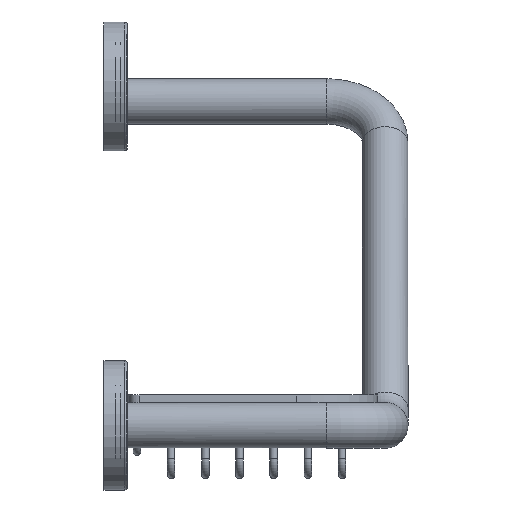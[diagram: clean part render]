
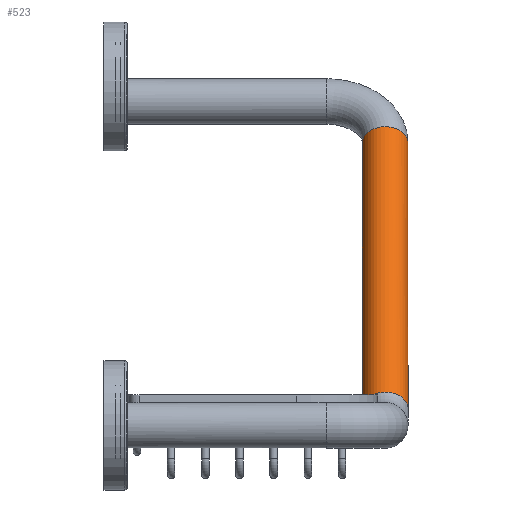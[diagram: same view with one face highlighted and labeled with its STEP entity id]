
A CAD part, left-side view. The second image highlights one B-rep face of the part: STEP entity #523.
In plain terms, the highlighted cylindrical face has radius 9 mm (diameter 18 mm), a full revolution.
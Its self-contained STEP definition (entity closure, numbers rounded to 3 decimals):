
#412=CYLINDRICAL_SURFACE('',#2634,9.);
#523=ADVANCED_FACE('',(#767,#768),#412,.T.);
#767=FACE_BOUND('',#1089,.T.);
#768=FACE_BOUND('',#1090,.T.);
#1089=EDGE_LOOP('',(#1479));
#1090=EDGE_LOOP('',(#1480));
#1479=ORIENTED_EDGE('',*,*,#2168,.T.);
#1480=ORIENTED_EDGE('',*,*,#2171,.F.);
#1923=VERTEX_POINT('',#3885);
#1926=VERTEX_POINT('',#3949);
#2168=EDGE_CURVE('',#1923,#1923,#2402,.T.);
#2171=EDGE_CURVE('',#1926,#1926,#2404,.T.);
#2402=CIRCLE('',#2629,9.);
#2404=CIRCLE('',#2632,9.);
#2629=AXIS2_PLACEMENT_3D('',#3884,#3145,#3146);
#2632=AXIS2_PLACEMENT_3D('',#3948,#3151,#3152);
#2634=AXIS2_PLACEMENT_3D('',#3951,#3155,#3156);
#3145=DIRECTION('',(0.707,0.,0.707));
#3146=DIRECTION('',(0.707,0.,-0.707));
#3151=DIRECTION('',(0.707,0.,0.707));
#3152=DIRECTION('',(-0.707,0.,0.707));
#3155=DIRECTION('',(0.707,0.,0.707));
#3156=DIRECTION('',(0.707,0.,-0.707));
#3884=CARTESIAN_POINT('',(1816.996,-76.7,498.237));
#3885=CARTESIAN_POINT('',(1823.36,-76.7,491.873));
#3948=CARTESIAN_POINT('',(1921.812,-76.7,603.053));
#3949=CARTESIAN_POINT('',(1915.448,-76.7,609.417));
#3951=CARTESIAN_POINT('',(1816.996,-76.7,498.237));
